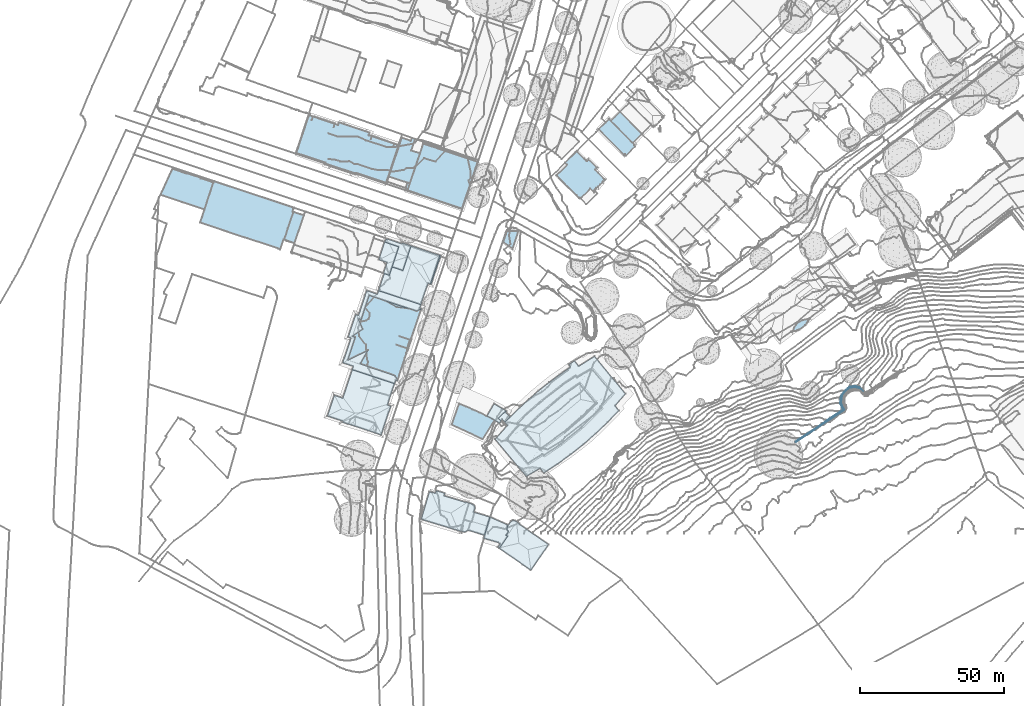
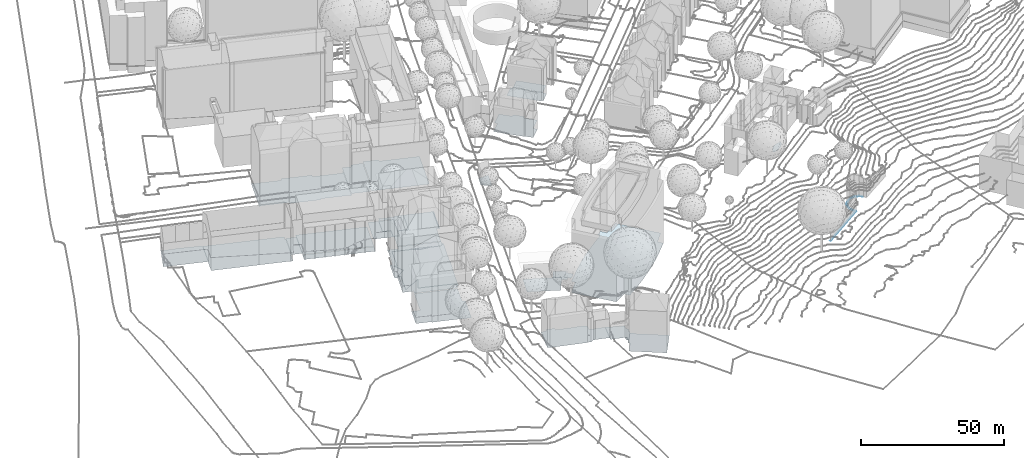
# Not in any storey, part 1 of 494: 14 footings.
"""IFC2X3 model written with IfcOpenShell, lengths in metres."""

import ifcopenshell
import ifcopenshell.guid

model = None  # the IFC model being written
_history = None  # IfcOwnerHistory: only IFC2X3 demands one
_inside = {}  # id of a spatial element -> (the spatial element, [elements in it])
_under = {}  # id of a project, library or spatial element -> (it, [spatial elements below it])
_declared = {}  # id of a project -> (the project, [libraries it declares])
_typed = {}  # id of a type object -> (the type object, [elements of that type])
_made_of = {}  # id of a material, layer set ... -> (it, [elements and type objects made of it])


def new_model(schema):
    """Start an empty IFC model of exactly this schema.

    Asked for "IFC4X3", IfcOpenShell would pick the latest addendum, in which some entities
    have other attributes; the version numbers below select the first issue.
    IFC2X3 requires an IfcOwnerHistory on every rooted entity: one is made here for all.
    """
    global model, _history
    if schema == "IFC4X3":
        model = ifcopenshell.file(schema_version=(4, 3, 0, 0))
    else:
        model = ifcopenshell.file(schema=schema)
    _inside.clear()
    _under.clear()
    _declared.clear()
    _typed.clear()
    _made_of.clear()
    _history = None
    if model.schema == "IFC2X3":
        org = make("IfcOrganization", Name="unknown")
        user = make(
            "IfcPersonAndOrganization",
            ThePerson=make("IfcPerson", FamilyName="unknown"),
            TheOrganization=org,
        )
        app = make(
            "IfcApplication",
            ApplicationDeveloper=org,
            Version="unknown",
            ApplicationFullName="unknown",
            ApplicationIdentifier="unknown",
        )
        _history = make(
            "IfcOwnerHistory",
            OwningUser=user,
            OwningApplication=app,
            ChangeAction="ADDED",
            CreationDate=0,
        )
    return model


def make(cls, **values):
    """One entity of the class cls with the attributes given. An attribute that is None is left unset."""
    return model.create_entity(
        cls, **{name: value for name, value in values.items() if value is not None}
    )


def rooted(cls, **values):
    """An entity with a GlobalId (a new one), such as an element, a storey or a relation."""
    return make(cls, GlobalId=ifcopenshell.guid.new(), OwnerHistory=_history, **values)


def si_unit(unit_type, name, prefix=None):
    """IfcSIUnit, for example si_unit("LENGTHUNIT", "METRE", prefix="MILLI")."""
    return make("IfcSIUnit", UnitType=unit_type, Prefix=prefix, Name=name)


def assignment(units):
    """IfcUnitAssignment: the units of a project."""
    return None if units is None else make("IfcUnitAssignment", Units=units)


def point(xyz):
    """IfcCartesianPoint."""
    return None if xyz is None else make("IfcCartesianPoint", Coordinates=xyz)


def direction(xyz):
    """IfcDirection."""
    return None if xyz is None else make("IfcDirection", DirectionRatios=xyz)


def frame(location, z_axis=None, x_axis=None):
    """IfcAxis2Placement3D, a coordinate frame: its origin and axes. An axis left out is left unset."""
    return make(
        "IfcAxis2Placement3D",
        Location=point(location),
        Axis=direction(z_axis),
        RefDirection=direction(x_axis),
    )


def origin_with_axes():
    """The frame at (0, 0, 0) with the z axis (0, 0, 1) and the x axis (1, 0, 0) written out."""
    return frame((0.0, 0.0, 0.0), z_axis=(0.0, 0.0, 1.0), x_axis=(1.0, 0.0, 0.0))


def place(relative_to, where):
    """IfcLocalPlacement: puts the frame where relative to a parent placement (None: the world)."""
    return make(
        "IfcLocalPlacement", PlacementRelTo=relative_to, RelativePlacement=where
    )


def context(
    kind, dimensions, precision=None, world=None, true_north=None, identifier=None
):
    """IfcGeometricRepresentationContext, for example the 3D "Model" context."""
    return make(
        "IfcGeometricRepresentationContext",
        ContextIdentifier=identifier,
        ContextType=kind,
        CoordinateSpaceDimension=dimensions,
        Precision=precision,
        WorldCoordinateSystem=world,
        TrueNorth=true_north,
    )


def subcontext(parent, identifier, kind, view, scale=None):
    """IfcGeometricRepresentationSubContext, for example "Body" below "Model"."""
    return make(
        "IfcGeometricRepresentationSubContext",
        ContextIdentifier=identifier,
        ContextType=kind,
        ParentContext=parent,
        TargetScale=scale,
        TargetView=view,
    )


def project(units=None, contexts=None):
    """IfcProject with its units and contexts."""
    return rooted(
        "IfcProject",
        Name="project",
        RepresentationContexts=contexts,
        UnitsInContext=assignment(units),
    )


def faces_of(points, faces, orient=None, outer=None):
    """IfcFace entities. A face is a list of loops; a loop is a list of indices into points, from 0.

    orient and outer hold one flag for each loop. By default every Orientation is true, the
    first loop of a face is its IfcFaceOuterBound and the others are IfcFaceBound.
    """
    made = []
    for i, loops in enumerate(faces):
        bounds = []
        for j, loop in enumerate(loops):
            is_outer = j == 0 if outer is None else outer[i][j]
            bounds.append(
                make(
                    "IfcFaceOuterBound" if is_outer else "IfcFaceBound",
                    Bound=make("IfcPolyLoop", Polygon=[points[k] for k in loop]),
                    Orientation=True if orient is None else orient[i][j],
                )
            )
        made.append(make("IfcFace", Bounds=bounds))
    return made


def faceted_brep(points, faces, orient=None, outer=None, voids=None):
    """IfcFacetedBrep: a solid bounded by flat faces; with voids (closed shells), ...WithVoids."""
    shared = [point(p) for p in points]
    hull = make("IfcClosedShell", CfsFaces=faces_of(shared, faces, orient, outer))
    if voids is None:
        return make("IfcFacetedBrep", Outer=hull)
    return make(
        "IfcFacetedBrepWithVoids",
        Outer=hull,
        Voids=[
            make(cls, CfsFaces=faces_of(shared, fs, o, b)) for cls, fs, o, b in voids
        ],
    )


def shape(context_of_items, identifier, shape_type, items):
    """IfcShapeRepresentation: the items that make up one representation, for example the "Body"."""
    return make(
        "IfcShapeRepresentation",
        ContextOfItems=context_of_items,
        RepresentationIdentifier=identifier,
        RepresentationType=shape_type,
        Items=items,
    )


def made_of(thing, what):
    """Note that an element or type object is made of a material, layer set ...; save() writes the relation."""
    if what is not None:
        _made_of.setdefault(what.id(), (what, []))[1].append(thing)
    return thing


def element(
    cls,
    number,
    at=None,
    inside=None,
    cuts=None,
    type_object=None,
    material=None,
    context=None,
    identifier="Body",
    shape_type=None,
    held_by="IfcProductDefinitionShape",
    body=None,
    shapes=None,
    **own,
):
    """One element of the class cls, such as IfcWall. Its Tag is "e" and its number.

    at: its placement. inside: the storey or other place that contains it. cuts: it is an
    opening in that element (IfcRelVoidsElement). A single representation is given by context,
    identifier, shape_type and body (its items); several are given by shapes. held_by: the class
    of the entity that holds the representations. save() writes the other relations.
    """
    e = rooted(cls, Tag="e%d" % number, ObjectPlacement=at, **own)
    if body is not None:
        shapes = [shape(context, identifier, shape_type, body)]
    if shapes is not None:
        e.Representation = make(held_by, Representations=shapes)
    if inside is not None:
        _inside.setdefault(inside.id(), (inside, []))[1].append(e)
    if cuts is not None:
        rooted(
            "IfcRelVoidsElement", RelatingBuildingElement=cuts, RelatedOpeningElement=e
        )
    if type_object is not None:
        _typed.setdefault(type_object.id(), (type_object, []))[1].append(e)
    return made_of(e, material)


def aggregate(whole, parts):
    """IfcRelAggregates: a whole, such as a stair, and the parts it consists of."""
    return rooted("IfcRelAggregates", RelatingObject=whole, RelatedObjects=parts)


def save(model, path):
    """Write the relations noted so far, then the file.

    IfcRelAggregates (storeys below a building ...), IfcRelContainedInSpatialStructure (elements
    in a storey), IfcRelDefinesByType, IfcRelAssociatesMaterial and IfcRelDeclares: one each for
    every whole, place, type object, material and project.
    """
    for whole, parts in _under.values():
        aggregate(whole, parts)
    for where, things in _inside.values():
        rooted(
            "IfcRelContainedInSpatialStructure",
            RelatedElements=things,
            RelatingStructure=where,
        )
    for kind, things in _typed.values():
        rooted("IfcRelDefinesByType", RelatedObjects=things, RelatingType=kind)
    for what, things in _made_of.values():
        rooted("IfcRelAssociatesMaterial", RelatedObjects=things, RelatingMaterial=what)
    for by, libraries in _declared.values():
        rooted("IfcRelDeclares", RelatingContext=by, RelatedDefinitions=libraries)
    model.write(path)


model = new_model("IFC2X3")

# Units and contexts
model_context = context("Model", 3, precision=1e-05, world=origin_with_axes())
body_context = subcontext(model_context, "Body", "Model", "MODEL_VIEW")
ifc_project = project(units=[si_unit("AREAUNIT", "SQUARE_METRE"), si_unit("LENGTHUNIT", "METRE")], contexts=[model_context])

# Footings
footing_1_placement = place(None, frame((211.8297320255, 101.9383160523, 526.7541), z_axis=(0.0, 0.0, 1.0), x_axis=(1.0, 0.0, 0.0)))
element("IfcFooting", 1, at=footing_1_placement, Name="Floor 20", PredefinedType="STRIP_FOOTING", context=body_context, shape_type="Brep", body=[
    faceted_brep([(-34.5759999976, -56.5976999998, -17.0633), (-33.9159999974, -55.2714999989, -17.0633), (-34.2349999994, -56.6416000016, -17.0633), (-34.2729999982, -58.0879000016, -17.0633), (-33.7829999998, -59.1513999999, -17.0634), (-34.0889999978, -59.3066999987, -17.0634), (-34.6169999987, -58.1572000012, -17.0633), (-50.118999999, -71.6132999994, -17.0633), (-50.3090000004, -71.3280999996, -17.0633), (-33.6050000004, -60.182599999, -17.0634), (-34.2329999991, -55.125, -17.0633), (-31.5610000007, -52.3574000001, -17.0633), (-31.4149999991, -52.6816999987, -17.0633), (-33.1439999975, -53.6620999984, -17.0633), (-32.8939999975, -53.9004000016, -17.0633), (-29.6919999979, -52.4120999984, -17.0633), (-33.1519999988, -60.2930000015, -17.0634), (-29.6769999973, -52.0634999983, -17.0633), (-27.7089999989, -52.5527999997, -17.0633), (-26.6359999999, -53.8544999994, -17.0634), (-27.8649999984, -52.8671999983, -17.0633)], [[[0, 1, 2]], [[3, 0, 2]], [[3, 4, 5]], [[3, 6, 0]], [[7, 8, 9]], [[6, 3, 5]], [[0, 10, 1]], [[11, 12, 13]], [[12, 14, 13]], [[12, 11, 15]], [[16, 9, 4]], [[16, 7, 9]], [[13, 14, 1]], [[9, 5, 4]], [[1, 10, 13]], [[17, 15, 11]], [[17, 18, 15]], [[18, 19, 20]], [[20, 15, 18]]]),
])
footing_2_placement = place(None, frame((160.7467320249, 68.8533160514, 524.6524), z_axis=(0.0, 0.0, 1.0), x_axis=(1.0, 0.0, 0.0)))
element("IfcFooting", 2, at=footing_2_placement, Name="Floor 0", PredefinedType="STRIP_FOOTING", context=body_context, shape_type="Brep", body=[
    faceted_brep([(0.4470000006, 1.3037, 0.0), (1.9539999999, 0.4356000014, 0.0), (1.4880000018, 0.2734999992, 0.0), (2.2640000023, 0.572300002, 0.0), (1.2660000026, 0.2168000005, 0.0), (3.3210000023, 1.3672000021, 0.0), (1.1090000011, 2.3280999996, 0.0), (1.9740000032, 3.1563000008, 0.0), (0.0150000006, 0.1231000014, 0.0), (0.0340000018, 0.0234999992, 0.0), (0.0, 0.0, 0.0), (0.5250000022, 0.067400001, 0.0), (1.0109999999, 0.1504000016, 0.0), (3.0090000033, 3.7588, 0.0), (4.1750000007, 4.1114000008, 0.0), (4.9690000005, 3.0342000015, 0.0), (5.4050000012, 3.9717000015, 0.0), (5.2080000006, 3.4942000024, 0.0), (5.6660000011, 4.1621000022, 0.0), (5.4290000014, 4.2012000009, 0.0), (4.2740000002, 2.0780999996, 0.0), (4.694000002, 2.6006000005, 0.0), (4.382000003, 2.1905000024, 0.0)], [[[0, 1, 2]], [[3, 1, 0]], [[2, 4, 0]], [[5, 0, 6]], [[6, 7, 5]], [[8, 9, 10]], [[8, 0, 11]], [[8, 11, 9]], [[11, 0, 12]], [[4, 12, 0]], [[13, 14, 15]], [[14, 16, 17]], [[14, 17, 15]], [[18, 16, 19]], [[16, 14, 19]], [[5, 3, 0]], [[20, 5, 7]], [[21, 13, 15]], [[22, 20, 7]], [[7, 21, 22]], [[7, 13, 21]]]),
])
footing_3_placement = place(None, frame((60.2177320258, 99.807416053, 527.0553), z_axis=(0.0, 0.0, 1.0), x_axis=(1.0, 0.0, 0.0)))
element("IfcFooting", 3, at=footing_3_placement, Name="Floor 0", PredefinedType="STRIP_FOOTING", context=body_context, shape_type="Brep", body=[
    faceted_brep([(1.3100000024, 3.8682000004, 0.0), (3.2190000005, -2.3368999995, 0.0), (0.0, 0.0, 0.0), (5.2420000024, 3.8145000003, 0.0)], [[[0, 1, 2]], [[1, 0, 3]]]),
])
footing_4_placement = place(None, frame((54.4957320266, 39.4383160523, 525.2974), z_axis=(0.0, 0.0, 1.0), x_axis=(1.0, 0.0, 0.0)))
element("IfcFooting", 4, at=footing_4_placement, Name="Floor 0", PredefinedType="STRIP_FOOTING", context=body_context, shape_type="Brep", body=[
    faceted_brep([(28.4890000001, 17.9638999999, -1.7479), (30.4200000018, 19.2245999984, -1.7479), (28.9499999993, 17.0243999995, -1.7479), (31.9250000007, 17.3418000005, -1.7479), (25.2219999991, 14.4345999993, -1.7479), (21.5870000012, 11.7157999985, -1.7479), (18.0500000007, 8.870099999, -1.7479), (7.2030000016, -3.2236000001, -1.7479), (11.3590000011, 2.8935000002, -1.7479), (14.6530000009, 5.9393999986, -1.7479), (6.2659999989, -2.1416000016, -1.7479), (8.1710000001, -0.2637000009, -1.7479), (44.5139999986, 3.6162, -1.7479), (48.1380000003, 7.754900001, -1.7479), (18.4660000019, -18.0859999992, -1.7479), (37.8350000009, -6.0117000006, -1.7479), (41.936999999, -2.1044999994, -1.7479), (45.8619999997, 1.9803999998, -1.7479), (33.5639999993, -9.7324000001, -1.7479), (13.7049999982, -20.9189999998, -1.7479), (2.9010000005, -7.9785000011, -1.7479), (24.5500000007, -16.5898999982, -1.7479), (29.1330000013, -13.2608000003, -1.7479), (19.824000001, -19.7129000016, -1.7479), (37.3819999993, 20.8027000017, -1.7479), (3.993999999, -0.6651000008, 0.0), (2.0130000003, -1.0263999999, 0.0), (2.5009999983, 4.2705000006, 0.0), (6.5139999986, 1.754900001, 0.0), (0.0, 0.0, 0.0), (3.1609999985, -1.7362999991, 0.0), (4.9389999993, -1.6484999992, 0.0), (6.8920000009, 1.7558000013, 0.0), (6.7509999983, 1.5088, 0.0), (4.4609999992, -2.4765999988, 0.0), (8.1710000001, -0.2637000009, -0.386), (5.2989999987, -1.0254000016, -0.386), (6.6140000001, 1.2694999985, -0.386), (6.7509999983, 1.5088, -0.386), (6.5139999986, 1.754900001, -0.386), (3.993999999, -0.6651000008, -0.386), (4.9389999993, -1.6484999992, -0.386), (6.2659999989, -2.1416000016, -0.386)], [[[0, 1, 2]], [[2, 3, 4]], [[2, 1, 3]], [[3, 5, 4]], [[3, 6, 5]], [[7, 8, 9]], [[9, 6, 7]], [[7, 10, 11]], [[11, 8, 7]], [[3, 7, 6]], [[12, 7, 3]], [[12, 3, 13]], [[12, 14, 7]], [[15, 12, 16]], [[12, 17, 16]], [[12, 15, 18]], [[19, 20, 7]], [[19, 7, 14]], [[21, 14, 22]], [[14, 21, 23]], [[18, 22, 14]], [[18, 14, 12]], [[3, 24, 13]], [[25, 26, 27]], [[27, 28, 25]], [[29, 27, 26]], [[26, 25, 30]], [[31, 30, 25]], [[32, 33, 28]], [[28, 27, 32]], [[34, 30, 31]], [[35, 36, 37]], [[38, 37, 39]], [[40, 39, 37]], [[40, 37, 36]], [[36, 41, 40]], [[36, 35, 42]]]),
])
footing_5_placement = place(None, frame((42.3237320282, 36.3992160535, 526.0533), z_axis=(0.0, 0.0, 1.0), x_axis=(1.0, 0.0, 0.0)))
element("IfcFooting", 5, at=footing_5_placement, Name="Floor 0", PredefinedType="STRIP_FOOTING", context=body_context, shape_type="Brep", body=[
    faceted_brep([(14.1849999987, 2.0126999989, 0.0), (14.868999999, 1.566399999, 0.0), (10.7749999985, -5.0215000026, 0.0), (12.1569999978, 3.0136999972, 0.0), (12.1719999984, 3.0390999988, 0.0), (15.3329999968, 1.3027999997, 0.0), (0.0, 0.0, 0.0), (2.5649999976, 7.2802999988, 0.0), (4.9599999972, 6.3349999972, 0.0), (7.3279999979, 5.3222999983, 0.0), (9.6669999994, 4.2460999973, 0.0)], [[[0, 1, 2]], [[0, 3, 4]], [[0, 5, 1]], [[2, 3, 0]], [[6, 7, 8]], [[8, 9, 6]], [[3, 2, 10]], [[6, 9, 10]], [[2, 6, 10]]]),
])
footing_6_placement = place(None, frame((78.7667320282, 123.0301160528, 529.3211), z_axis=(0.0, 0.0, 1.0), x_axis=(1.0, 0.0, 0.0)))
element("IfcFooting", 6, at=footing_6_placement, Name="Floor 0", PredefinedType="STRIP_FOOTING", context=body_context, shape_type="Brep", body=[
    faceted_brep([(16.7109999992, -1.625, -0.0001), (16.5169999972, -1.2813000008, -0.0001), (16.7819999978, -1.5547000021, -0.0001), (14.4459999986, 0.8535000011, -0.0001), (16.0089999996, -2.3194000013, -0.0001), (15.4229999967, -2.9004000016, -0.0001), (13.3699999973, 1.9628999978, 0.0), (15.1199999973, -3.1992000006, -0.0001), (14.436999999, -3.875, -0.0001), (10.4769999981, 4.8680999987, 0.0), (3.7009999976, 3.6631000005, 0.0), (10.6209999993, 5.0106999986, 0.0), (13.9399999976, 2.6543000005, 0.0), (14.0039999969, 2.5907999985, 0.0), (11.1199999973, 5.5058000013, 0.0), (6.5949999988, 7.9648000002, 0.0), (9.5, 5.8563999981, 0.0), (7.0089999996, 8.375, 0.0), (7.0219999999, 8.3612999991, 0.0), (13.7709999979, -4.5351999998, -0.0001), (13.2909999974, -5.009800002, -0.0001), (13.0449999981, -5.2529000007, -0.0001), (13.5549999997, -4.7481000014, -0.0001), (13.3609999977, -5.572300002, -0.0001), (10.2869999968, -10.1006000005, -0.0001), (8.2649999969, -8.126000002, -0.0001), (8.2419999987, -8.1493999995, -0.0001), (7.930999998, -7.8350000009, -0.0001), (14.1019999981, -6.3213, -0.0001), (6.8609999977, -6.9365000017, -0.0001), (2.981999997, 4.3896000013, 0.0), (0.0, 0.0, 0.0), (7.8399999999, -7.9257999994, -0.0001)], [[[0, 1, 2]], [[3, 1, 4]], [[0, 4, 1]], [[5, 6, 3]], [[7, 8, 9]], [[7, 6, 5]], [[4, 5, 3]], [[8, 10, 9]], [[6, 11, 12]], [[12, 13, 6]], [[12, 11, 14]], [[9, 11, 6]], [[9, 10, 15]], [[9, 15, 16]], [[15, 17, 18]], [[18, 16, 15]], [[7, 9, 6]], [[19, 10, 8]], [[20, 21, 10]], [[22, 20, 10]], [[23, 24, 21]], [[25, 21, 24]], [[26, 27, 25]], [[21, 25, 27]], [[28, 24, 23]], [[29, 21, 27]], [[10, 30, 15]], [[29, 31, 10]], [[29, 10, 21]], [[29, 27, 32]], [[10, 19, 22]]]),
])
footing_7_placement = place(None, frame((53.3647320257, -2.937683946, 525.6963), z_axis=(0.0, 0.0, 1.0), x_axis=(1.0, 0.0, 0.0)))
element("IfcFooting", 7, at=footing_7_placement, Name="Floor 0", PredefinedType="STRIP_FOOTING", context=body_context, shape_type="Brep", body=[
    faceted_brep([(12.4990000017, 4.7714999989, -4.7716), (9.5360000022, 5.8642999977, -4.7716), (9.7149999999, 5.9960999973, -4.7716), (9.4730000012, 5.7997999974, -4.7716), (10.0179999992, 6.1356999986, -4.7716), (10.3500000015, 6.1963, -4.7716), (10.6900000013, 6.1728999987, -4.7716), (11.4800000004, 5.7577999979, -4.7716), (9.3819999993, 5.7040999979, -4.7716), (8.5769999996, 4.5449000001, -4.7716), (8.3949999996, 4.4287, -4.7716), (8.4959999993, 4.5810999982, -4.7716), (8.2440000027, 4.1981999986, -4.7716), (8.6270000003, 2.25, -4.7716), (8.5040000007, 2.4384999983, -4.7716), (8.1359999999, 2.9970999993, -4.7716), (11.2070000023, 5.9481999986, -4.7716), (11.012000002, 6.0644999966, -4.7716), (22.5720000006, -2.1904000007, -4.7716), (12.4780000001, 5.056599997, -4.7716), (12.0179999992, 5.3798999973, -4.7716), (19.6229999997, -6.4560000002, -4.7716), (7.7939999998, 1.0429999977, -4.7716), (8.3370000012, 0.6679999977, -4.7716), (13.6520000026, -9.1904000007, -4.7716), (5.4450000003, -3.5175999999, -4.7716), (16.4140000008, -11.0986000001, -4.7716), (8.2440000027, 4.1981999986, 0.0), (8.1359999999, 2.9970999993, 0.0), (5.0030000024, -1.4550999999, 0.0), (7.7939999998, 1.0429999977, 0.0), (8.5020000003, 2.441399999, 0.0), (8.6270000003, 2.25, 0.0), (2.370000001, 7.3007999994, 0.0), (2.7380000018, 7.1503999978, 0.0), (1.2569999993, 4.2509999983, 0.0), (8.3949999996, 4.4287, 0.0), (8.4959999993, 4.5810999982, 0.0), (2.1850000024, 7.3710999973, 0.0), (8.3370000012, 0.6679999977, 0.0), (5.7430000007, -1.9736000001, 0.0), (5.626000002, -3.255900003, 0.0), (0.313000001, 1.0497999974, 0.0), (0.1449999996, -0.0439000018, 0.0), (4.9790000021, -3.063500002, 0.0), (0.0, 0.0, 0.0)], [[[0, 1, 2]], [[0, 3, 1]], [[2, 4, 0]], [[5, 6, 7]], [[0, 4, 5]], [[3, 0, 8]], [[9, 10, 11]], [[10, 9, 12]], [[13, 14, 12]], [[9, 8, 0]], [[15, 12, 14]], [[9, 13, 12]], [[16, 6, 17]], [[18, 9, 0]], [[7, 0, 5]], [[16, 7, 6]], [[19, 0, 20]], [[13, 9, 18]], [[0, 7, 20]], [[13, 18, 21]], [[22, 13, 23]], [[24, 25, 23]], [[23, 21, 24]], [[21, 26, 24]], [[23, 13, 21]], [[27, 28, 29]], [[30, 28, 31]], [[30, 31, 32]], [[33, 34, 35]], [[36, 27, 34]], [[34, 37, 36]], [[27, 29, 34]], [[33, 35, 38]], [[29, 28, 30]], [[39, 40, 30]], [[39, 41, 40]], [[29, 42, 35]], [[29, 35, 34]], [[29, 43, 42]], [[40, 41, 44]], [[45, 42, 43]], [[40, 29, 30]]]),
])
footing_8_placement = place(None, frame((31.7207320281, 3.7234160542, 525.7003), z_axis=(0.0, 0.0, 1.0), x_axis=(1.0, 0.0, 0.0)))
element("IfcFooting", 8, at=footing_8_placement, Name="Floor 0", PredefinedType="STRIP_FOOTING", context=body_context, shape_type="Brep", body=[
    faceted_brep([(3.8589999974, 9.3095999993, 0.0), (4.8939999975, 8.9941999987, 0.0), (3.818, 9.1747999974, 0.0), (0.0, 0.0, 0.0), (3.6419999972, 9.2285999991, 0.0), (2.8209999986, 9.4785999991, 0.0), (7.943, 8.0527999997, 0.0), (8.2159999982, 8.9550999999, 0.0), (5.1600000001, 9.8642999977, 0.0), (0.8969999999, -0.2744000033, 0.0), (15.1849999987, 5.8632999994, 0.0), (12.8990000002, -4.0312000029, 0.0), (0.867999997, -0.371100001, 0.0), (18.1999999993, 2.3964999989, 0.0), (13.7099999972, -4.1484000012, 0.0), (13.6739999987, -4.2675000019, 0.0), (15.0709999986, -4.5537, 0.0), (16.3029999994, -3.9492000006, 0.0), (16.5989999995, 5.5585999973, 0.0), (18.0319999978, 5.0673999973, 0.0), (18.2829999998, 4.8544999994, 0.0), (17.7369999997, 5.2109999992, 0.0), (18.6209999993, 4.0683999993, 0.0), (18.4159999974, 4.6816999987, 0.0), (18.557, 4.3876999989, 0.0), (18.618999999, 3.8515999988, 0.0), (18.5799999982, 3.6386999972, 0.0), (18.5359999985, 2.2949999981, 0.0), (16.992999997, -4.0918000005, -0.004), (16.930999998, -4.1259000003, -0.004), (23.8279999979, 0.7079999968, -0.004), (22.9009999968, -2.4101000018, -0.004), (21.9459999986, -5.6191000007, -0.004), (15.2199999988, 5.9785999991, 0.0)], [[[0, 1, 2]], [[2, 1, 3]], [[2, 3, 4]], [[4, 3, 5]], [[6, 1, 7]], [[1, 6, 3]], [[1, 8, 7]], [[9, 3, 6]], [[6, 10, 9]], [[9, 11, 12]], [[9, 10, 11]], [[10, 13, 11]], [[11, 14, 15]], [[16, 14, 17]], [[14, 11, 17]], [[10, 18, 13]], [[19, 20, 21]], [[21, 22, 18]], [[23, 21, 20]], [[22, 21, 24]], [[25, 26, 18]], [[22, 25, 18]], [[23, 24, 21]], [[18, 26, 13]], [[17, 27, 28]], [[11, 13, 17]], [[29, 17, 28]], [[17, 13, 27]], [[30, 31, 27]], [[28, 31, 32]], [[28, 27, 31]], [[33, 18, 10]]]),
])
footing_9_placement = place(None, frame((93.366732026, 139.0154160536, 529.92), z_axis=(0.0, 0.0, 1.0), x_axis=(1.0, 0.0, 0.0)))
element("IfcFooting", 9, at=footing_9_placement, Name="Floor 0", PredefinedType="STRIP_FOOTING", context=body_context, shape_type="Brep", body=[
    faceted_brep([(9.0810000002, -8.7324000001, 0.0), (12.6420000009, -5.9756000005, 0.0), (9.506000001, -9.1621000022, 0.0), (12.2569999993, -5.5868999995, 0.0), (12.2200000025, -5.1377000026, 0.0), (12.4629999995, -5.3828000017, 0.0), (0.0, 0.0, 0.0), (3.5109999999, 3.4775999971, 0.0), (0.0580000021, -0.0576000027, 0.0), (3.6000000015, 3.5654999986, 0.0), (8.8610000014, -8.951100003, 0.0), (15.0190000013, -1.5849000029, 0.104), (11.8300000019, -4.7441000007, 0.104), (4.25, 2.9423999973, 0.104), (11.307, 2.1943999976, 0.104), (7.4539999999, 6.1162, 0.104), (3.8320000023, 3.3310999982, 0.104), (3.8489999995, 3.3486999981, 0.104)], [[[0, 1, 2]], [[1, 0, 3]], [[3, 4, 5]], [[4, 3, 0]], [[6, 7, 8]], [[0, 8, 7]], [[9, 4, 7]], [[4, 0, 7]], [[10, 8, 0]], [[11, 12, 13]], [[14, 11, 13]], [[13, 15, 14]], [[16, 17, 13]], [[13, 12, 16]]]),
])
footing_10_placement = place(None, frame((-11.7152679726, 130.4334160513, 524.4966), z_axis=(0.0, 0.0, 1.0), x_axis=(1.0, 0.0, 0.0)))
element("IfcFooting", 10, at=footing_10_placement, Name="Floor 0", PredefinedType="STRIP_FOOTING", context=body_context, shape_type="Brep", body=[
    faceted_brep([(31.3609999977, -10.4316000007, 0.0), (30.8640000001, -10.2665999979, 0.0), (30.9609999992, -9.9726999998, 0.0), (20.8929999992, -6.623999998, 0.0), (32.0379999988, -8.4091999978, 0.0), (26.3079999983, 6.1357000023, 0.0), (18.4509999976, -6.4442999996, 0.0), (12.4450000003, -4.4452999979, 0.0), (23.3889999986, 8.0645000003, 0.0), (25.243999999, 6.4902000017, 0.0), (19.4820000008, -6.7870999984, 0.0), (20.7039999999, -7.1933999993, 0.0), (14.6499999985, 10.0137000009, 0.0), (17.2430000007, 10.1338, 0.0), (34.0810000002, 3.5381000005, 0.0), (35.3229999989, 1.4081999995, 0.0), (35.5949999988, 3.0322000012, 0.0), (35.930999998, 4.0507999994, 0.0), (36.1789999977, 3.9678000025, 0.0), (24.3420000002, 7.7432000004, 0.0), (25.5289999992, 7.3447000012, 0.0), (16.3709999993, 10.4277000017, 0.0), (11.5, -4.1317999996, 0.0), (10.307, -3.1024999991, 0.0), (10.1180000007, -3.6719000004, 0.0), (10.2540000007, -3.0858999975, 0.0), (10.3200000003, 11.4570000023, 0.0), (6.1860000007, -1.7313999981, 0.0), (0.2760000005, 0.2344000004, 0.0), (0.1739999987, -0.057599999, 0.0), (0.0, 0.0, 0.0), (0.6959999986, 2.0800999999, 0.0), (14.9479999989, 10.9063000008, 0.0), (14.8519999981, 10.6201000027, 0.0), (4.675999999, 13.3388999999, 0.0), (3.756000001, 11.2226999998, 0.0), (3.9809999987, 11.8965000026, 0.0), (4.5089999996, 13.4766000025, 0.0), (4.7069999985, 13.4316000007, 0.0), (4.6490000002, 13.8965000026, 0.0), (4.8399999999, 13.8320000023, 0.0), (2.3990000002, 7.1709000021, 0.0), (0.8719999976, 2.6074000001, 0.0)], [[[0, 1, 2]], [[2, 3, 4]], [[4, 0, 2]], [[4, 3, 5]], [[6, 7, 8]], [[6, 9, 3]], [[10, 3, 11]], [[10, 6, 3]], [[12, 13, 7]], [[5, 14, 15]], [[4, 5, 15]], [[14, 16, 15]], [[16, 17, 18]], [[18, 15, 16]], [[3, 9, 5]], [[9, 19, 20]], [[9, 8, 19]], [[7, 13, 8]], [[8, 9, 6]], [[21, 13, 12]], [[7, 22, 23]], [[22, 24, 23]], [[25, 26, 23]], [[25, 27, 26]], [[26, 12, 23]], [[28, 26, 27]], [[12, 7, 23]], [[29, 30, 28]], [[30, 31, 28]], [[31, 26, 28]], [[32, 21, 33]], [[12, 33, 21]], [[34, 35, 36]], [[36, 37, 34]], [[38, 39, 40]], [[39, 38, 37]], [[34, 37, 38]], [[26, 35, 34]], [[35, 26, 41]], [[31, 42, 26]], [[42, 41, 26]]]),
])
footing_11_placement = place(None, frame((19.7027320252, 120.1717160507, 524.8305), z_axis=(0.0, 0.0, 1.0), x_axis=(1.0, 0.0, 0.0)))
element("IfcFooting", 11, at=footing_11_placement, Name="Floor 0", PredefinedType="STRIP_FOOTING", context=body_context, shape_type="Brep", body=[
    faceted_brep([(12.9979999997, 14.5928000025, 0.0001), (12.0890000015, 14.8545000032, 0.0001), (12.1020000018, 14.8925999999, 0.0001), (11.5980000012, 10.4101000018, 0.0), (10.6570000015, 15.1513000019, 0.0001), (12.7290000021, 13.7920000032, 0.0001), (8.4350000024, 14.7881000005, 0.0001), (9.9160000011, 15.3994000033, 0.0001), (8.7740000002, 15.8027000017, 0.0001), (10.7140000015, 15.3154000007, 0.0001), (7.2390000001, 0.2246000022, 0.0), (0.7960000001, 2.3818000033, 0.0), (8.0940000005, -0.0605999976, 0.0), (6.6290000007, -1.5937999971, 0.0), (0.3020000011, 0.5117000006, 0.0), (5.3000000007, 15.8369000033, 0.0001), (0.1190000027, -0.0400999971, 0.0), (0.0, 0.0, 0.0), (30.2420000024, 2.8574000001, 0.696), (29.307, 0.0556000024, 0.696), (17.9890000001, 12.0303000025, 0.696), (29.1090000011, -0.5351999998, 0.696), (8.0940000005, -0.0605999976, 0.696), (27.6650000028, -4.8622999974, 0.6959), (30.5040000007, 3.6406000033, 0.696), (31.6280000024, 7.4668000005, 0.696), (31.7660000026, 7.4209000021, 0.696), (26.3020000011, -8.9433999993, 0.6959), (6.6390000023, -2.3993999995, 0.696), (6.8770000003, -1.6767999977, 0.696), (6.6290000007, -1.5946999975, 0.696), (7.2390000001, 0.2246000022, 0.696), (12.9979999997, 14.5928000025, 0.696), (18.2590000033, 12.8330000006, 0.696), (12.7290000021, 13.7920000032, 0.696), (11.5980000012, 10.4101000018, 0.696)], [[[0, 1, 2]], [[1, 3, 4]], [[1, 0, 5]], [[6, 7, 4]], [[6, 4, 3]], [[6, 8, 7]], [[1, 4, 9]], [[1, 5, 3]], [[6, 10, 11]], [[3, 12, 10]], [[13, 14, 10]], [[11, 15, 6]], [[16, 17, 14]], [[17, 11, 14]], [[14, 11, 10]], [[6, 3, 10]], [[18, 19, 20]], [[19, 21, 22]], [[22, 21, 23]], [[24, 25, 26]], [[20, 24, 18]], [[20, 25, 24]], [[27, 22, 23]], [[28, 29, 22]], [[30, 31, 29]], [[31, 22, 29]], [[32, 33, 20]], [[20, 34, 32]], [[34, 20, 35]], [[35, 20, 22]], [[22, 20, 19]], [[27, 28, 22]]]),
])
footing_12_placement = place(None, frame((-58.7722679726, 116.2176160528, 523.7797), z_axis=(0.0, 0.0, 1.0), x_axis=(1.0, 0.0, 0.0)))
element("IfcFooting", 12, at=footing_12_placement, Name="Floor 0", PredefinedType="STRIP_FOOTING", context=body_context, shape_type="Brep", body=[
    faceted_brep([(70.745000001, -24.8584000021, -0.519), (67.5989999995, -11.5800999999, -0.519), (74.4210000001, -13.8662, -0.519), (60.7969999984, -9.313500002, -0.519), (60.4169999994, -9.1865000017, -0.519), (70.5830000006, -25.378899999, -0.519), (46.370000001, -17.2959000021, -0.519), (63.824000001, -10.3233000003, -0.519), (67.2199999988, -11.4541000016, -0.519), (64.2029999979, -10.4492000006, -0.519), (50.2129999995, -5.7881000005, -0.519), (50.6559999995, -5.9345999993, -0.519), (53.6339999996, -6.9268000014, -0.519), (57.7249999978, -8.2910000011, -0.519), (54.0139999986, -7.0537, -0.519), (49.7190000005, -7.1035000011, -0.373), (49.7540000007, -6.9981000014, -0.373), (49.8029999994, -7.0137000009, -0.373), (46.5449999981, -16.7705000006, -0.373), (44.2179999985, -11.7217000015, -0.373), (46.1549999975, -5.9189999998, -0.373), (43.873999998, -15.8779000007, -0.373), (42.9349999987, -15.5645000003, -0.373), (70.745000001, -24.8584000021, 2.1637), (75.7329999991, -22.4776000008, 2.1637), (74.4639999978, -26.0967000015, 2.1637), (74.4389999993, -26.2001999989, 2.1637), (77.362999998, -27.1797000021, 2.1637), (74.0280000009, -15.0419999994, 2.1637), (77.7799999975, -16.3203000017, 2.1637), (78.6090000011, -23.432599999, 2.1637), (48.9179999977, -21.0703000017, -0.71), (45.9389999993, -20.0791000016, -0.71), (46.370000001, -17.2959000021, -0.71), (49.2980000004, -21.1963, -0.71), (45.555999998, -19.9618999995, -0.71), (45.8350000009, -20.3916000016, -0.71), (45.4869999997, -19.938500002, -0.71), (52.7139999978, -22.3339999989, -0.71), (52.3339999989, -22.2070000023, -0.71), (49.1939999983, -21.5088, -0.71), (52.6090000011, -22.6455000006, -0.71), (55.7229999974, -23.3330000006, -0.71), (56.1019999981, -23.4589999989, -0.71), (45.4549999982, -20.2646999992, -0.71), (52.2300000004, -22.5195000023, -0.71), (48.8139999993, -21.3828000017, -0.71), (55.9969999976, -23.7725000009, -0.71), (55.6180000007, -23.6464999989, -0.71), (62.5150000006, -25.5956999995, -0.71), (62.8939999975, -25.7217000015, -0.71), (62.7899999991, -26.0351999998, -0.71), (70.5830000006, -25.378899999, -0.71), (59.1180000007, -24.4649000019, -0.71), (59.487999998, -24.5879000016, -0.71), (59.3839999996, -24.9004000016, -0.71), (69.699000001, -27.9970999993, -0.71), (69.3189999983, -27.8612999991, -0.71), (66.2909999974, -26.8526000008, -0.71), (65.9210000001, -26.7294999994, -0.71), (66.186999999, -27.1660000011, -0.71), (69.2149999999, -28.1737999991, -0.71), (59.0139999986, -24.7783000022, -0.71), (65.8169999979, -27.0430000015, -0.71), (62.4109999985, -25.9092000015, -0.71), (69.5979999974, -28.3007999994, -0.71), (18.4210000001, 4.254900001, -0.5939), (16.1719999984, -2.3603999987, -0.5939), (18.3409999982, 4.2822000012, -0.5939), (23.2190000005, -12.7969000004, -0.594), (15.1970000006, -5.3427999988, -0.5939), (34.182, -0.4600000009, -0.594), (18.5789999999, 4.7294999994, -0.5939), (44.2179999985, -11.7217000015, -0.594), (30.1099999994, -15.0419999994, -0.594), (13.7929999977, -9.6533000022, -0.5939), (30.0969999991, -15.0918000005, -0.594), (46.2009999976, -4.8467000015, -0.594), (46.1349999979, -4.8251999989, -0.594), (46.318, -4.496100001, -0.594), (45.8099999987, -5.8037, -0.594), (46.1549999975, -5.9189999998, -0.594), (42.9349999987, -15.5645000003, -0.594), (42.7009999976, -15.4873000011, -0.594), (40.8000000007, -18.6152999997, -0.594), (41.5520000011, -18.9356000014, -0.594), (40.7829999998, -18.6816999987, -0.594), (8.9079999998, -2.9873000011, 0.0), (16.1719999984, -2.3603999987, 0.0), (15.2699999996, -5.120099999, 0.0), (13.9890000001, 5.7285000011, 0.0), (0.0, 0.0, 0.0), (18.3409999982, 4.2822000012, 0.0), (9.1999999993, 7.4589999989, 0.0), (14.0299999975, 5.8515000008, 0.0), (9.1589999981, 7.3348999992, 0.0), (4.3350000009, 8.9393999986, 0.0), (4.2839999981, 9.3436999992, 0.0), (4.4509999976, 9.2881000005, 0.0)], [[[0, 1, 2]], [[3, 0, 4]], [[5, 6, 0]], [[0, 3, 7]], [[1, 0, 8]], [[8, 0, 9]], [[7, 9, 0]], [[10, 11, 6]], [[12, 6, 11]], [[4, 6, 13]], [[14, 6, 12]], [[14, 13, 6]], [[4, 0, 6]], [[15, 16, 17]], [[17, 18, 15]], [[19, 20, 15]], [[19, 15, 21]], [[19, 21, 22]], [[15, 18, 21]], [[23, 24, 25]], [[26, 25, 27]], [[24, 27, 25]], [[28, 29, 24]], [[24, 23, 28]], [[30, 27, 24]], [[31, 32, 33]], [[33, 34, 31]], [[35, 32, 36]], [[32, 37, 33]], [[32, 35, 37]], [[38, 39, 33]], [[34, 33, 39]], [[34, 40, 31]], [[38, 41, 39]], [[42, 38, 33]], [[43, 42, 33]], [[44, 35, 36]], [[39, 41, 45]], [[46, 31, 40]], [[47, 48, 42]], [[43, 47, 42]], [[49, 50, 51]], [[50, 49, 52]], [[53, 54, 55]], [[53, 52, 54]], [[49, 54, 52]], [[52, 56, 57]], [[57, 58, 52]], [[59, 58, 60]], [[59, 52, 58]], [[59, 50, 52]], [[33, 53, 43]], [[61, 57, 56]], [[62, 53, 55]], [[59, 60, 63]], [[64, 49, 51]], [[65, 61, 56]], [[33, 52, 53]], [[66, 67, 68]], [[67, 69, 70]], [[67, 66, 71]], [[71, 69, 67]], [[66, 72, 71]], [[73, 74, 69]], [[75, 70, 69]], [[74, 76, 69]], [[69, 71, 73]], [[77, 78, 79]], [[80, 71, 78]], [[71, 79, 78]], [[71, 80, 73]], [[73, 80, 81]], [[73, 82, 83]], [[73, 83, 74]], [[83, 84, 74]], [[85, 86, 84]], [[84, 83, 85]], [[87, 88, 89]], [[90, 88, 91]], [[92, 88, 90]], [[90, 93, 94]], [[93, 90, 95]], [[87, 91, 88]], [[90, 91, 95]], [[91, 96, 95]], [[91, 97, 96]], [[96, 97, 98]]]),
])
footing_13_placement = place(None, frame((6.2087320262, 58.8602160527, 526.0234), z_axis=(0.0, 0.0, 1.0), x_axis=(1.0, 0.0, 0.0)))
element("IfcFooting", 13, at=footing_13_placement, Name="Floor 0", PredefinedType="STRIP_FOOTING", context=body_context, shape_type="Brep", body=[
    faceted_brep([(23.5879999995, 11.9813999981, 0.0), (23.9919999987, 17.0458999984, 0.0), (25.5760000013, 17.8574000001, 0.0), (22.2050000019, 7.3574000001, 0.0), (20.8520000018, 3.2938999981, 0.0), (22.0419999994, 7.4111000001, 0.0), (20.6909999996, 3.3475999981, 0.0), (7.0269999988, 3.4169999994, 0.0), (5.2030000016, 10.7382000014, 0.0), (15.5450000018, 19.7762999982, 0.0), (7.438000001, 22.5135999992, 0.0), (4.6649999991, 14.121100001, 0.0), (3.6620000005, 14.4540999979, 0.0), (20.3720000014, 2.3885999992, 0.0), (19.8599999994, 0.6933000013, 0.0), (19.813000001, 0.7098999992, 0.0), (20.4189999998, 2.3720000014, 0.0), (17.8559999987, -5.322300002, 0.0), (16.5540000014, -5.4688000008, 0.0), (17.8090000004, -5.3066999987, 0.0), (17.2919999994, -7.0175999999, 0.0), (12.0729999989, -3.9052999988, 0.0), (2.6490000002, 8.0155999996, 0.0), (1.6449999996, 8.3486000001, 0.0), (0.0, 0.0, 0.0), (8.0500000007, -2.5713, 0.0), (4.3040000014, -1.2989000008, 0.0)], [[[0, 1, 2]], [[3, 4, 5]], [[6, 7, 8]], [[5, 4, 6]], [[9, 1, 0]], [[10, 9, 11]], [[0, 11, 9]], [[8, 11, 5]], [[5, 6, 8]], [[11, 8, 12]], [[11, 0, 5]], [[13, 7, 6]], [[14, 15, 16]], [[7, 13, 15]], [[17, 18, 19]], [[20, 18, 17]], [[15, 19, 18]], [[15, 21, 7]], [[8, 22, 23]], [[7, 24, 22]], [[21, 25, 7]], [[7, 22, 8]], [[26, 7, 25]], [[21, 15, 18]], [[15, 13, 16]]]),
])
footing_14_placement = place(None, frame((6.2087320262, 58.8602160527, 526.0234), z_axis=(0.0, 0.0, 1.0), x_axis=(1.0, 0.0, 0.0)))
element("IfcFooting", 14, at=footing_14_placement, Name="Floor 1", PredefinedType="STRIP_FOOTING", context=body_context, shape_type="Brep", body=[
    faceted_brep([(25.5760000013, 17.8574000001, 0.149), (25.4120000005, 17.375, 0.149), (24.7890000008, 17.4540999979, 0.149), (3.7030000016, 15.5428999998, 0.0), (3.7670000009, 15.7353000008, 0.0), (4.6649999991, 14.121100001, 0.0), (3.6620000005, 14.4540999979, 0.0), (2.7419999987, 15.8612999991, 0.0), (2.8909999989, 15.8125, 0.0), (5.2030000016, 10.7382000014, 0.0), (1.6449999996, 8.3486000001, 0.0), (3.9690000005, 16.3418000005, 0.0), (4.0159999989, 16.3251999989, 0.0), (5.9589999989, 22.3319999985, 0.0), (6.5749999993, 24.1816000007, 0.0), (6.006000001, 22.3154000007, 0.0), (7.438000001, 22.5135999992, 0.0), (0.4409999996, 7.9510999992, 0.0), (0.1440000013, 8.0507000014, 0.0), (-1.1559999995, 0.9257000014, 0.0), (-1.1079999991, 0.9090999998, 0.0), (-1.7630000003, -0.9013999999, 0.0), (0.8469999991, 6.9521000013, 0.0), (1.1059999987, 7.7313999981, 0.0), (0.8949999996, 6.936499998, 0.0), (2.6490000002, 8.0155999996, 0.0), (0.0, 0.0, 0.0), (10.2760000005, 22.9521000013, 0.0), (10.6730000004, 24.1484000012, 0.0), (15.5450000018, 19.7762999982, 0.0), (25.0179999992, 18.0819999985, 0.0), (23.9919999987, 17.0458999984, 0.0), (25.4169999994, 19.2793000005, 0.0), (25.5870000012, 17.8915999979, 0.0), (25.5760000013, 17.8574000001, 0.0), (4.3040000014, -1.2989000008, 0.0), (1.938000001, -2.1319000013, 0.0), (1.550999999, -3.2969000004, 0.0), (8.0500000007, -2.5713, 0.0), (7.0269999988, 3.4169999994, 0.0), (12.0729999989, -3.9052999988, 0.0), (16.2789999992, -8.1601999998, 0.0), (16.5540000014, -5.4688000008, 0.0), (16.6739999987, -6.9747000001, 0.0), (17.2430000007, -7.1640999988, 0.0), (17.2919999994, -7.0175999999, 0.0), (30.3770000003, 36.9668000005, 0.149), (30.8610000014, 36.8055999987, 0.149), (30.3610000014, 36.9199000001, 0.149), (27.8790000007, 26.6717999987, 0.149), (31.9759999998, 36.4354999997, 0.149), (28.6790000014, 26.4052000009, 0.149), (20.7239999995, 35.9316000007, 0.149), (21.9670000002, 39.7127999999, 0.149), (15.3839999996, 32.3563999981, 0.149), (19.1429999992, 31.121100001, 0.149), (14.4270000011, 29.4912, 0.149), (27.4039999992, 25.4032999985, 0.149), (27.4510000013, 25.3876999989, 0.149), (25.6339999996, 19.9316000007, 0.149), (25.4169999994, 19.2793000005, 0.149), (25.5870000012, 19.9472000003, 0.149), (10.6730000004, 24.1484000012, 0.149), (12.6460000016, 30.0839000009, 0.149), (16.9910000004, 18.4530999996, 0.149), (13.0729999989, 20.6112999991, 0.149), (15.5450000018, 19.7762999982, 0.149), (21.3740000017, 17.8915999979, 0.149), (31.6950000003, 34.2978000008, 0.167), (31.6480000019, 34.3134000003, 0.167), (32.368999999, 36.3046000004, 0.167), (31.9759999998, 36.4354999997, 0.167), (29.0460000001, 26.4111000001, 0.167), (29.6290000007, 28.3037, 0.167), (29.675999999, 28.2870999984, 0.167), (28.6790000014, 26.4052000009, 0.167), (29.0069999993, 26.2967999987, 0.167), (-1.0119999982, -21.7675999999, -0.29), (-1.7609999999, -21.5186000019, -0.29), (-1.680999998, -21.1552999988, -0.29), (0.2109999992, -22.1220999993, -0.29), (0.1950000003, -22.1700000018, -0.29), (-1.7980000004, -21.5069000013, -0.29), (-1.7210000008, -13.1387000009, -0.29), (0.3980000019, -22.1845999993, -0.285), (0.4750000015, -22.2109999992, -0.285), (2.625, -22.9248000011, -0.285), (13.2459999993, -20.9501999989, -0.29), (7.1449999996, -24.4268000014, -0.285), (7.1799999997, -24.438500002, -0.285), (9.6570000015, -25.313500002, -0.29), (9.6730000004, -25.2666999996, -0.29), (11.629999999, -25.9688000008, -0.29), (2.5879999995, -22.9122000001, -0.285), (9.5190000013, -25.2159000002, -0.285), (12.2459999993, -23.9589999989, -0.29), (12.2930000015, -23.9756000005, -0.29), (-7.0720000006, -19.3643000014, -0.29), (-4.6679999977, -12.1581999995, -0.29), (13.8099999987, -15.572300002, -0.29), (1.550999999, -3.2969000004, -0.29), (8.7470000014, -5.6719000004, -0.29), (-1.6459999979, -12.9131000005, -0.29), (16.1970000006, -8.2481000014, -0.29), (14.194000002, -14.2657000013, -0.29), (16.2789999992, -8.1601999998, -0.29), (14.2459999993, -17.942400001, -0.29), (14.936999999, -16.0245000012, -0.29), (14.2930000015, -17.9580000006, -0.29), (14.2410000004, -14.2813000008, -0.29), (14.9600000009, -15.9541999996, -0.29), (16.243999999, -8.2646999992, -0.29), (17.7219999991, 39.3603000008, -0.08), (13.6280000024, 33.9248000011, -0.08), (12.7989999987, 41.0370999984, -0.08), (14.4270000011, 29.4912, -0.08), (10.7520000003, 34.8797999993, -0.08), (12.6460000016, 30.0839000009, -0.08), (12.3850000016, 30.1845000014, -0.08), (12.9609999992, 41.5243999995, 0.078), (13.1550000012, 41.4609000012, 0.078), (12.7989999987, 41.0370999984, 0.078), (17.7219999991, 39.3603000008, 0.078), (20.8920000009, 40.0692999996, 0.078), (19.1429999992, 31.121100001, 0.078), (15.3839999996, 32.3563999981, 0.078), (13.4000000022, 42.1972000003, 0.078), (18.7989999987, 40.4023000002, 0.078), (21.9670000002, 39.7127999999, 0.078), (18.9230000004, 40.7762999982, 0.078), (20.9079999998, 40.1162, 0.078)], [[[0, 1, 2]], [[3, 4, 5]], [[6, 7, 8]], [[9, 10, 7]], [[11, 12, 4]], [[13, 14, 15]], [[5, 4, 12]], [[16, 12, 15]], [[6, 8, 3]], [[7, 17, 18]], [[19, 20, 21]], [[22, 23, 24]], [[25, 24, 23]], [[23, 17, 10]], [[24, 25, 20]], [[20, 26, 21]], [[10, 25, 23]], [[10, 17, 7]], [[14, 16, 15]], [[27, 16, 14]], [[28, 29, 27]], [[12, 16, 5]], [[7, 6, 9]], [[3, 5, 6]], [[29, 16, 27]], [[30, 31, 32]], [[33, 34, 30]], [[31, 29, 32]], [[30, 34, 31]], [[29, 28, 32]], [[26, 20, 25]], [[26, 35, 36]], [[36, 35, 37]], [[21, 26, 36]], [[38, 37, 35]], [[35, 26, 39]], [[38, 40, 41]], [[40, 42, 41]], [[41, 42, 43]], [[44, 43, 45]], [[42, 45, 43]], [[41, 37, 38]], [[46, 47, 48]], [[49, 47, 50]], [[50, 51, 49]], [[47, 49, 48]], [[48, 52, 53]], [[48, 49, 52]], [[54, 55, 56]], [[55, 52, 49]], [[49, 57, 55]], [[58, 57, 49]], [[59, 60, 61]], [[56, 62, 63]], [[62, 56, 61]], [[61, 60, 62]], [[55, 61, 56]], [[61, 55, 57]], [[64, 65, 66]], [[66, 67, 64]], [[68, 69, 70]], [[69, 71, 70]], [[72, 73, 74]], [[75, 73, 76]], [[75, 71, 73]], [[71, 69, 73]], [[72, 76, 73]], [[77, 78, 79]], [[77, 80, 81]], [[80, 77, 79]], [[82, 79, 78]], [[79, 83, 80]], [[80, 83, 84]], [[84, 83, 85]], [[86, 87, 88]], [[89, 88, 87]], [[90, 91, 92]], [[93, 85, 83]], [[91, 94, 95]], [[95, 96, 92]], [[95, 92, 91]], [[94, 89, 95]], [[93, 83, 86]], [[83, 79, 97]], [[98, 83, 97]], [[86, 83, 99]], [[100, 101, 102]], [[102, 101, 99]], [[103, 104, 101]], [[105, 103, 101]], [[102, 99, 83]], [[104, 99, 101]], [[99, 106, 87]], [[89, 87, 95]], [[106, 99, 107]], [[106, 107, 108]], [[99, 87, 86]], [[109, 99, 104]], [[110, 107, 99]], [[103, 105, 111]], [[112, 113, 114]], [[112, 115, 113]], [[113, 116, 114]], [[113, 117, 118]], [[113, 115, 117]], [[119, 120, 121]], [[120, 122, 121]], [[122, 123, 124]], [[124, 125, 122]], [[126, 122, 120]], [[122, 126, 127]], [[128, 124, 123]], [[129, 123, 127]], [[130, 123, 129]], [[122, 127, 123]]]),
])

save(model, "model.ifc")
